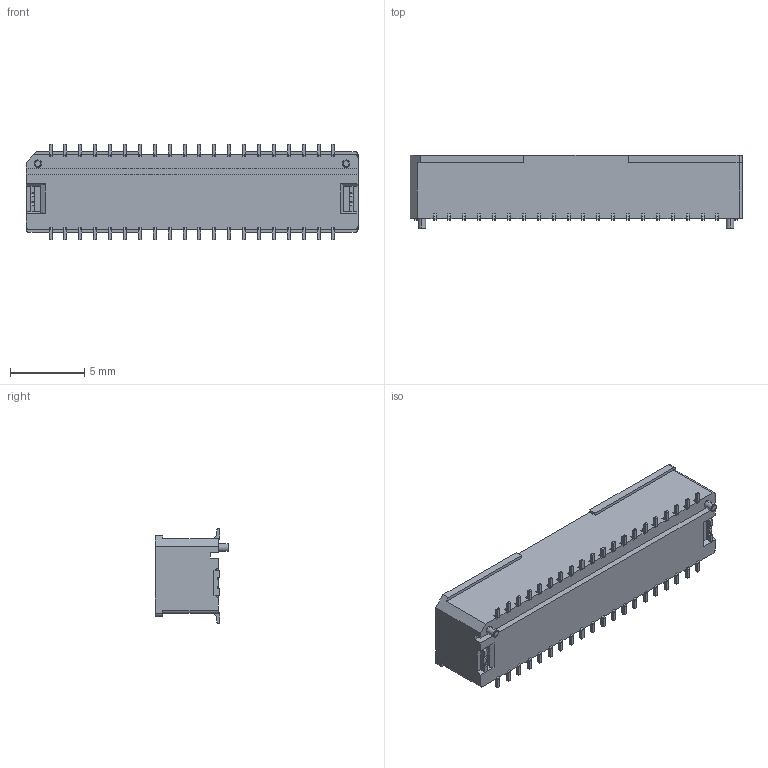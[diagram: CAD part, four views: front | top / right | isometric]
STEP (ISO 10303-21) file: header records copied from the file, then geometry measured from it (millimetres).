
FILE_DESCRIPTION((''),'2;1');
FILE_NAME('50238-04001-001','2017-09-02T',('d32172'),(''),'CREO PARAMETRIC BY PTC INC, 2014500','CREO PARAMETRIC BY PTC INC, 2014500','');
FILE_SCHEMA(('CONFIG_CONTROL_DESIGN'));
Length unit declared in the file: millimetre
Products named in the file (1): 50238-04001-001
Bounding box: 22.3 x 4.95 x 6.4 mm (x, y, z)
Volume: 218.9 mm3; surface area: 770.5 mm2
Topology: 1 solids, 1 shells, 897 faces, 2384 edges, 1532 vertices
Faces by surface type: plane 751, cylinder 142, torus 4
Entity records: 27352 total; most frequent: CARTESIAN_POINT 4813, ORIENTED_EDGE 4768, DIRECTION 4470, EDGE_CURVE 2384, VECTOR 2092, LINE 2092, VERTEX_POINT 1532, AXIS2_PLACEMENT_3D 1189
